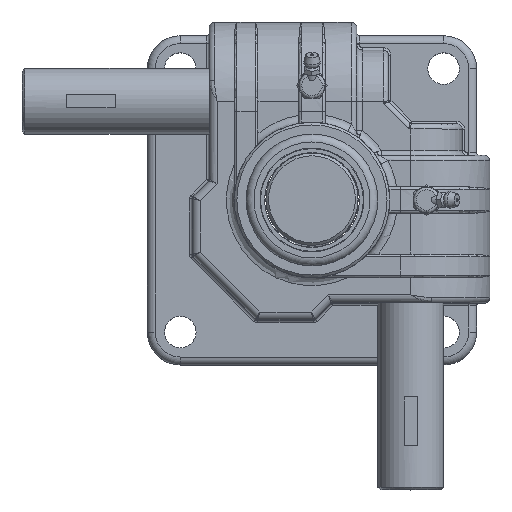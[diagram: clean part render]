
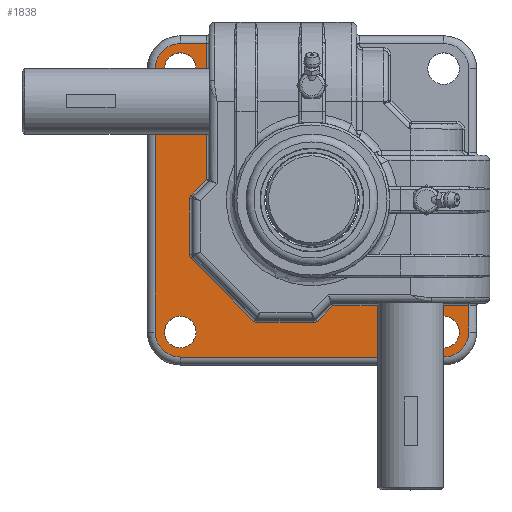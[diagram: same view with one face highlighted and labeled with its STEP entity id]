
A CAD part, top view. The second image highlights one B-rep face of the part: STEP entity #1838.
In plain terms, the highlighted planar face has unit normal (0, 0, 1).
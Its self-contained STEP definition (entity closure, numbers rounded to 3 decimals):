
#1838=ADVANCED_FACE('',(#5412,#5413,#5414,#5415),#5416,.T.);
#5412=FACE_OUTER_BOUND('',#13508,.T.);
#5413=FACE_BOUND('',#13509,.T.);
#5414=FACE_BOUND('',#13510,.T.);
#5415=FACE_BOUND('',#13511,.T.);
#5416=PLANE('',#13512);
#13508=EDGE_LOOP('',(#23843,#23844,#23845,#23846,#23847,#23848,#23849,#23850,#23851,#23852,#23853,#23854,#23855,#23856,#23857,#23858,#23859,#23860));
#13509=EDGE_LOOP('',(#23861));
#13510=EDGE_LOOP('',(#23862));
#13511=EDGE_LOOP('',(#23863));
#13512=AXIS2_PLACEMENT_3D('',#23864,#23865,#23866);
#23843=ORIENTED_EDGE('',*,*,#40350,.T.);
#23844=ORIENTED_EDGE('',*,*,#40376,.T.);
#23845=ORIENTED_EDGE('',*,*,#40377,.T.);
#23846=ORIENTED_EDGE('',*,*,#40378,.T.);
#23847=ORIENTED_EDGE('',*,*,#40379,.T.);
#23848=ORIENTED_EDGE('',*,*,#40380,.T.);
#23849=ORIENTED_EDGE('',*,*,#40226,.T.);
#23850=ORIENTED_EDGE('',*,*,#40190,.T.);
#23851=ORIENTED_EDGE('',*,*,#40381,.T.);
#23852=ORIENTED_EDGE('',*,*,#40382,.T.);
#23853=ORIENTED_EDGE('',*,*,#39970,.T.);
#23854=ORIENTED_EDGE('',*,*,#40203,.T.);
#23855=ORIENTED_EDGE('',*,*,#40287,.T.);
#23856=ORIENTED_EDGE('',*,*,#40216,.T.);
#23857=ORIENTED_EDGE('',*,*,#40103,.T.);
#23858=ORIENTED_EDGE('',*,*,#40383,.T.);
#23859=ORIENTED_EDGE('',*,*,#39906,.T.);
#23860=ORIENTED_EDGE('',*,*,#40115,.T.);
#23861=ORIENTED_EDGE('',*,*,#40344,.F.);
#23862=ORIENTED_EDGE('',*,*,#40160,.F.);
#23863=ORIENTED_EDGE('',*,*,#40161,.F.);
#23864=CARTESIAN_POINT('',(0.0,0.0,-35.0));
#23865=DIRECTION('',(0.,0.,1.0));
#23866=DIRECTION('',(1.0,0.,0.));
#39906=EDGE_CURVE('',#47822,#47820,#47823,.T.);
#39970=EDGE_CURVE('',#47924,#47922,#47925,.T.);
#40103=EDGE_CURVE('',#48114,#48112,#48115,.T.);
#40115=EDGE_CURVE('',#47820,#48130,#48132,.T.);
#40160=EDGE_CURVE('',#48193,#48193,#48194,.T.);
#40161=EDGE_CURVE('',#48195,#48195,#48196,.T.);
#40190=EDGE_CURVE('',#48232,#48122,#48233,.T.);
#40203=EDGE_CURVE('',#47922,#48248,#48250,.T.);
#40216=EDGE_CURVE('',#48267,#48114,#48268,.T.);
#40226=EDGE_CURVE('',#48281,#48232,#48282,.T.);
#40287=EDGE_CURVE('',#48248,#48267,#48364,.T.);
#40344=EDGE_CURVE('',#48437,#48437,#48438,.T.);
#40350=EDGE_CURVE('',#48130,#48443,#48445,.T.);
#40376=EDGE_CURVE('',#48443,#48477,#48478,.T.);
#40377=EDGE_CURVE('',#48477,#48479,#48480,.T.);
#40378=EDGE_CURVE('',#48479,#48481,#48482,.T.);
#40379=EDGE_CURVE('',#48481,#48483,#48484,.T.);
#40380=EDGE_CURVE('',#48483,#48281,#48485,.T.);
#40381=EDGE_CURVE('',#48122,#48486,#48487,.T.);
#40382=EDGE_CURVE('',#48486,#47924,#48488,.T.);
#40383=EDGE_CURVE('',#48112,#47822,#48489,.T.);
#47820=VERTEX_POINT('',#64347);
#47822=VERTEX_POINT('',#64349);
#47823=LINE('',#64350,#64351);
#47922=VERTEX_POINT('',#64690);
#47924=VERTEX_POINT('',#64692);
#47925=LINE('',#64693,#64694);
#48112=VERTEX_POINT('',#65047);
#48114=VERTEX_POINT('',#65049);
#48115=LINE('',#65050,#65051);
#48122=VERTEX_POINT('',#65061);
#48130=VERTEX_POINT('',#65072);
#48132=LINE('',#65074,#65075);
#48193=VERTEX_POINT('',#65217);
#48194=CIRCLE('',#65218,6.0);
#48195=VERTEX_POINT('',#65219);
#48196=CIRCLE('',#65220,6.0);
#48232=VERTEX_POINT('',#65304);
#48233=LINE('',#65305,#65306);
#48248=VERTEX_POINT('',#65334);
#48250=CIRCLE('',#65336,2.0);
#48267=VERTEX_POINT('',#65358);
#48268=CIRCLE('',#65359,2.0);
#48281=VERTEX_POINT('',#65376);
#48282=LINE('',#65377,#65378);
#48364=LINE('',#65573,#65574);
#48437=VERTEX_POINT('',#65723);
#48438=CIRCLE('',#65724,6.0);
#48443=VERTEX_POINT('',#65732);
#48445=LINE('',#65734,#65735);
#48477=VERTEX_POINT('',#65796);
#48478=CIRCLE('',#65797,9.5);
#48479=VERTEX_POINT('',#65798);
#48480=LINE('',#65799,#65800);
#48481=VERTEX_POINT('',#65801);
#48482=CIRCLE('',#65802,9.5);
#48483=VERTEX_POINT('',#65803);
#48484=LINE('',#65804,#65805);
#48485=CIRCLE('',#65806,9.5);
#48486=VERTEX_POINT('',#65807);
#48487=LINE('',#65808,#65809);
#48488=CIRCLE('',#65810,2.0);
#48489=CIRCLE('',#65811,2.0);
#64347=CARTESIAN_POINT('',(-40.0,7.914,-35.0));
#64349=CARTESIAN_POINT('',(-45.914,2.,-35.0));
#64350=CARTESIAN_POINT('',(-42.957,4.957,-35.0));
#64351=VECTOR('',#80092,1.0);
#64690=CARTESIAN_POINT('',(-20.62,-46.5,-35.0));
#64692=CARTESIAN_POINT('',(0.586,-46.5,-35.0));
#64693=CARTESIAN_POINT('',(-10.017,-46.5,-35.0));
#64694=VECTOR('',#80189,1.0);
#65047=CARTESIAN_POINT('',(-46.5,0.586,-35.0));
#65049=CARTESIAN_POINT('',(-46.5,-20.62,-35.0));
#65050=CARTESIAN_POINT('',(-46.5,-10.017,-35.0));
#65051=VECTOR('',#80425,1.0);
#65061=CARTESIAN_POINT('',(7.914,-40.0,-35.0));
#65072=CARTESIAN_POINT('',(-40.0,59.5,-35.0));
#65074=CARTESIAN_POINT('',(-40.0,33.707,-35.0));
#65075=VECTOR('',#80447,1.0);
#65217=CARTESIAN_POINT('',(-44.0,-50.0,-35.0));
#65218=AXIS2_PLACEMENT_3D('',#80523,#80524,#80525);
#65219=CARTESIAN_POINT('',(-44.0,50.0,-35.0));
#65220=AXIS2_PLACEMENT_3D('',#80526,#80527,#80528);
#65304=CARTESIAN_POINT('',(59.5,-40.0,-35.0));
#65305=CARTESIAN_POINT('',(33.707,-40.0,-35.0));
#65306=VECTOR('',#80579,1.0);
#65334=CARTESIAN_POINT('',(-22.034,-45.914,-35.0));
#65336=AXIS2_PLACEMENT_3D('',#80600,#80601,#80602);
#65358=CARTESIAN_POINT('',(-45.914,-22.034,-35.0));
#65359=AXIS2_PLACEMENT_3D('',#80629,#80630,#80631);
#65376=CARTESIAN_POINT('',(59.5,-50.,-35.0));
#65377=CARTESIAN_POINT('',(59.5,0.0,-35.0));
#65378=VECTOR('',#80651,1.0);
#65573=CARTESIAN_POINT('',(-33.974,-33.974,-35.0));
#65574=VECTOR('',#80756,1.0);
#65723=CARTESIAN_POINT('',(56.0,-50.0,-35.0));
#65724=AXIS2_PLACEMENT_3D('',#80874,#80875,#80876);
#65732=CARTESIAN_POINT('',(-50.0,59.5,-35.0));
#65734=CARTESIAN_POINT('',(0.0,59.5,-35.0));
#65735=VECTOR('',#80886,1.0);
#65796=CARTESIAN_POINT('',(-59.5,50.,-35.0));
#65797=AXIS2_PLACEMENT_3D('',#80938,#80939,#80940);
#65798=CARTESIAN_POINT('',(-59.5,-50.0,-35.0));
#65799=CARTESIAN_POINT('',(-59.5,0.0,-35.0));
#65800=VECTOR('',#80941,1.0);
#65801=CARTESIAN_POINT('',(-50.,-59.5,-35.0));
#65802=AXIS2_PLACEMENT_3D('',#80942,#80943,#80944);
#65803=CARTESIAN_POINT('',(50.0,-59.5,-35.0));
#65804=CARTESIAN_POINT('',(0.0,-59.5,-35.0));
#65805=VECTOR('',#80945,1.0);
#65806=AXIS2_PLACEMENT_3D('',#80946,#80947,#80948);
#65807=CARTESIAN_POINT('',(2.0,-45.914,-35.0));
#65808=CARTESIAN_POINT('',(4.957,-42.957,-35.0));
#65809=VECTOR('',#80949,1.0);
#65810=AXIS2_PLACEMENT_3D('',#80950,#80951,#80952);
#65811=AXIS2_PLACEMENT_3D('',#80953,#80954,#80955);
#80092=DIRECTION('',(0.707,0.707,0.0));
#80189=DIRECTION('',(-1.0,0.0,0.0));
#80425=DIRECTION('',(0.0,1.0,0.));
#80447=DIRECTION('',(0.0,1.0,0.));
#80523=CARTESIAN_POINT('',(-50.0,-50.0,-35.0));
#80524=DIRECTION('',(0.,0.,1.0));
#80525=DIRECTION('',(1.0,0.,0.));
#80526=CARTESIAN_POINT('',(-50.0,50.0,-35.0));
#80527=DIRECTION('',(0.,0.,1.0));
#80528=DIRECTION('',(1.0,0.,0.));
#80579=DIRECTION('',(-1.0,0.0,0.));
#80600=CARTESIAN_POINT('',(-20.62,-44.5,-35.0));
#80601=DIRECTION('',(0.,0.,-1.0));
#80602=DIRECTION('',(1.0,0.,0.));
#80629=CARTESIAN_POINT('',(-44.5,-20.62,-35.0));
#80630=DIRECTION('',(0.,0.,-1.0));
#80631=DIRECTION('',(1.0,0.,0.));
#80651=DIRECTION('',(0.0,1.0,0.));
#80756=DIRECTION('',(-0.707,0.707,0.));
#80874=CARTESIAN_POINT('',(50.0,-50.0,-35.0));
#80875=DIRECTION('',(0.,0.,1.0));
#80876=DIRECTION('',(1.0,0.,0.));
#80886=DIRECTION('',(-1.0,0.0,0.));
#80938=CARTESIAN_POINT('',(-50.0,50.0,-35.0));
#80939=DIRECTION('',(0.,0.,1.0));
#80940=DIRECTION('',(1.0,0.,0.));
#80941=DIRECTION('',(0.0,-1.0,0.));
#80942=CARTESIAN_POINT('',(-50.0,-50.0,-35.0));
#80943=DIRECTION('',(0.0,0.0,1.0));
#80944=DIRECTION('',(1.0,0.0,0.0));
#80945=DIRECTION('',(1.0,0.0,0.));
#80946=CARTESIAN_POINT('',(50.0,-50.0,-35.0));
#80947=DIRECTION('',(0.,0.,1.0));
#80948=DIRECTION('',(1.0,0.,0.));
#80949=DIRECTION('',(-0.707,-0.707,0.0));
#80950=CARTESIAN_POINT('',(0.586,-44.5,-35.0));
#80951=DIRECTION('',(0.,0.,-1.0));
#80952=DIRECTION('',(1.0,0.,0.));
#80953=CARTESIAN_POINT('',(-44.5,0.586,-35.0));
#80954=DIRECTION('',(0.,0.,-1.0));
#80955=DIRECTION('',(1.0,0.,0.));
